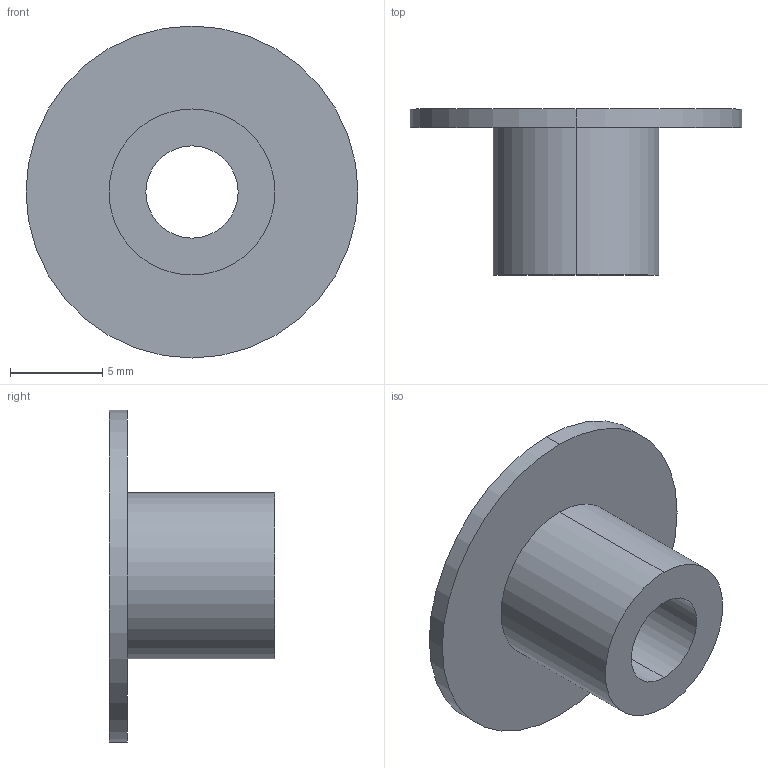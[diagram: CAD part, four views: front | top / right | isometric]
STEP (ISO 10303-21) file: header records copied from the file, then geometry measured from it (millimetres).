
FILE_DESCRIPTION(/* description */ ('STEP AP242 Edition 2','CAx-IF Rec.Pracs.---Representation and Presentation of Product Manufacturing Information (PMI)---4.0---2014-10-13','CAx-IF Rec.Pracs.---3D Tessellated Geometry---0.4---2014-09-14','2;1','CAx-IF Rec.Pracs.---User Defined Attributes---1.5---2016-08-15'),/* implementation_level */ '2;1');
FILE_NAME(/* name */ 'Assembly 1 - Part 2 (12)',/* time_stamp */ '2026-10-08T06:00:14Z',/* author */ (''),/* organization */ (''),/* preprocessor_version */ 'ST-DEVELOPER v20',/* originating_system */ 'ONSHAPE BY PTC INC, 1.221',/* authorisation */ ' ');
FILE_SCHEMA (('AP242_MANAGED_MODEL_BASED_3D_ENGINEERING_MIM_LF { 1 0 10303 442 3 1 4 }'));
Length unit declared in the file: metre
Products named in the file (1): Part 2
Bounding box: 18 x 9 x 18 mm (x, y, z)
Volume: 586.7 mm3; surface area: 893.8 mm2
Topology: 1 solids, 1 shells, 9 faces, 18 edges, 12 vertices
Faces by surface type: bspline 9
Entity records: 276 total; most frequent: CARTESIAN_POINT 97, ORIENTED_EDGE 36, DIRECTION 26, EDGE_CURVE 18, AXIS2_PLACEMENT_3D 13, VERTEX_POINT 12, CIRCLE 12, EDGE_LOOP 12
